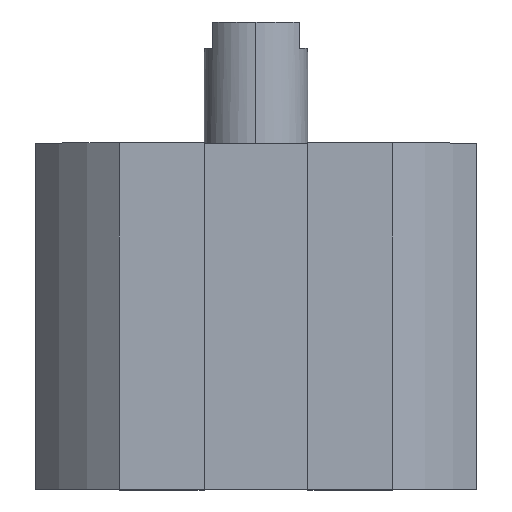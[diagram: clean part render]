
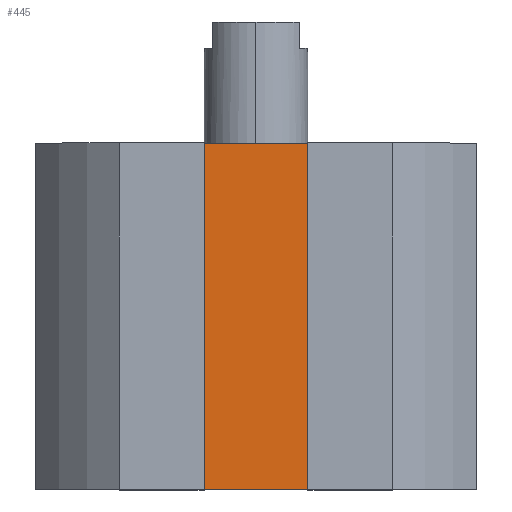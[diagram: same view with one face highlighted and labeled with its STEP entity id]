
A CAD part, top view. The second image highlights one B-rep face of the part: STEP entity #445.
In plain terms, the highlighted planar face has unit normal (0, 0, 1).
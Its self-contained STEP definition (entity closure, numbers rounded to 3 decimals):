
#46 = CARTESIAN_POINT ( 'NONE',  ( 0., -40., 17. ) ) ;
#63 = PLANE ( 'NONE',  #100 ) ;
#74 = EDGE_LOOP ( 'NONE', ( #1682, #1318, #2541, #1412 ) ) ;
#100 = AXIS2_PLACEMENT_3D ( 'NONE', #46, #1194, #311 ) ;
#250 = DIRECTION ( 'NONE',  ( 0., 1., 0. ) ) ;
#269 = CARTESIAN_POINT ( 'NONE',  ( 7.7, -40., 17. ) ) ;
#281 = EDGE_CURVE ( 'NONE', #2672, #2400, #322, .T. ) ;
#311 = DIRECTION ( 'NONE',  ( 1., 0., 0. ) ) ;
#322 = LINE ( 'NONE', #1115, #2261 ) ;
#391 = LINE ( 'NONE', #1950, #2562 ) ;
#424 = VECTOR ( 'NONE', #1322, 1000. ) ;
#445 = ADVANCED_FACE ( 'NONE', ( #2531 ), #63, .T. ) ;
#449 = DIRECTION ( 'NONE',  ( 1., 0., 0. ) ) ;
#637 = DIRECTION ( 'NONE',  ( 0., 1., 0. ) ) ;
#673 = CARTESIAN_POINT ( 'NONE',  ( 0., 0., 17. ) ) ;
#715 = CARTESIAN_POINT ( 'NONE',  ( -7.7, 0., 17. ) ) ;
#774 = VERTEX_POINT ( 'NONE', #1640 ) ;
#1115 = CARTESIAN_POINT ( 'NONE',  ( -7.7, -40., 17. ) ) ;
#1194 = DIRECTION ( 'NONE',  ( 0., 0., 1. ) ) ;
#1222 = EDGE_CURVE ( 'NONE', #2672, #1286, #1340, .T. ) ;
#1286 = VERTEX_POINT ( 'NONE', #269 ) ;
#1318 = ORIENTED_EDGE ( 'NONE', *, *, #281, .F. ) ;
#1322 = DIRECTION ( 'NONE',  ( 1., 0., 0. ) ) ;
#1340 = LINE ( 'NONE', #2401, #1438 ) ;
#1412 = ORIENTED_EDGE ( 'NONE', *, *, #1787, .T. ) ;
#1438 = VECTOR ( 'NONE', #449, 1000. ) ;
#1640 = CARTESIAN_POINT ( 'NONE',  ( 7.7, 0., 17. ) ) ;
#1682 = ORIENTED_EDGE ( 'NONE', *, *, #1731, .F. ) ;
#1731 = EDGE_CURVE ( 'NONE', #2400, #774, #2702, .T. ) ;
#1787 = EDGE_CURVE ( 'NONE', #1286, #774, #391, .T. ) ;
#1950 = CARTESIAN_POINT ( 'NONE',  ( 7.7, -40., 17. ) ) ;
#2261 = VECTOR ( 'NONE', #637, 1000. ) ;
#2400 = VERTEX_POINT ( 'NONE', #715 ) ;
#2401 = CARTESIAN_POINT ( 'NONE',  ( 0., -40., 17. ) ) ;
#2531 = FACE_OUTER_BOUND ( 'NONE', #74, .T. ) ;
#2541 = ORIENTED_EDGE ( 'NONE', *, *, #1222, .T. ) ;
#2562 = VECTOR ( 'NONE', #250, 1000. ) ;
#2672 = VERTEX_POINT ( 'NONE', #2755 ) ;
#2702 = LINE ( 'NONE', #673, #424 ) ;
#2755 = CARTESIAN_POINT ( 'NONE',  ( -7.7, -40., 17. ) ) ;
